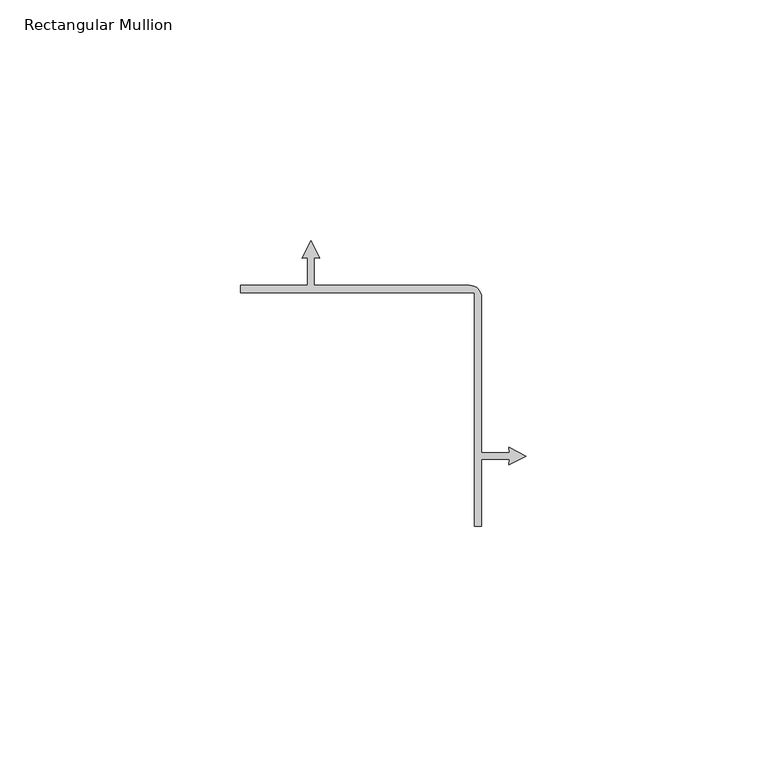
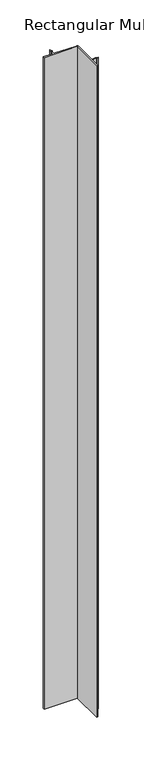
"""IFC4 building model written with IfcOpenShell, lengths in millimetres: member geometry, Rectangular Mullion : Renson_Linarte_LA-CO-04."""

import ifcopenshell
import ifcopenshell.guid

model = None  # the IFC model being written
_history = None  # IfcOwnerHistory: only IFC2X3 demands one
_inside = {}  # id of a spatial element -> (the spatial element, [elements in it])
_under = {}  # id of a project, library or spatial element -> (it, [spatial elements below it])
_declared = {}  # id of a project -> (the project, [libraries it declares])
_typed = {}  # id of a type object -> (the type object, [elements of that type])
_made_of = {}  # id of a material, layer set ... -> (it, [elements and type objects made of it])


def new_model(schema):
    """Start an empty IFC model of exactly this schema.

    Asked for "IFC4X3", IfcOpenShell would pick the latest addendum, in which some entities
    have other attributes; the version numbers below select the first issue.
    IFC2X3 requires an IfcOwnerHistory on every rooted entity: one is made here for all.
    """
    global model, _history
    if schema == "IFC4X3":
        model = ifcopenshell.file(schema_version=(4, 3, 0, 0))
    else:
        model = ifcopenshell.file(schema=schema)
    _inside.clear()
    _under.clear()
    _declared.clear()
    _typed.clear()
    _made_of.clear()
    _history = None
    if model.schema == "IFC2X3":
        org = make("IfcOrganization", Name="unknown")
        user = make(
            "IfcPersonAndOrganization",
            ThePerson=make("IfcPerson", FamilyName="unknown"),
            TheOrganization=org,
        )
        app = make(
            "IfcApplication",
            ApplicationDeveloper=org,
            Version="unknown",
            ApplicationFullName="unknown",
            ApplicationIdentifier="unknown",
        )
        _history = make(
            "IfcOwnerHistory",
            OwningUser=user,
            OwningApplication=app,
            ChangeAction="ADDED",
            CreationDate=0,
        )
    return model


def make(cls, **values):
    """One entity of the class cls with the attributes given. An attribute that is None is left unset."""
    return model.create_entity(
        cls, **{name: value for name, value in values.items() if value is not None}
    )


def rooted(cls, **values):
    """An entity with a GlobalId (a new one), such as an element, a storey or a relation."""
    return make(cls, GlobalId=ifcopenshell.guid.new(), OwnerHistory=_history, **values)


def si_unit(unit_type, name, prefix=None):
    """IfcSIUnit, for example si_unit("LENGTHUNIT", "METRE", prefix="MILLI")."""
    return make("IfcSIUnit", UnitType=unit_type, Prefix=prefix, Name=name)


def assignment(units):
    """IfcUnitAssignment: the units of a project."""
    return None if units is None else make("IfcUnitAssignment", Units=units)


def point(xyz):
    """IfcCartesianPoint."""
    return None if xyz is None else make("IfcCartesianPoint", Coordinates=xyz)


def direction(xyz):
    """IfcDirection."""
    return None if xyz is None else make("IfcDirection", DirectionRatios=xyz)


def frame(location, z_axis=None, x_axis=None):
    """IfcAxis2Placement3D, a coordinate frame: its origin and axes. An axis left out is left unset."""
    return make(
        "IfcAxis2Placement3D",
        Location=point(location),
        Axis=direction(z_axis),
        RefDirection=direction(x_axis),
    )


def frame_2d(location, x_axis=None):
    """IfcAxis2Placement2D, a coordinate frame in the plane: its origin and x axis."""
    return make(
        "IfcAxis2Placement2D", Location=point(location), RefDirection=direction(x_axis)
    )


def origin():
    """The frame at (0, 0, 0) with its axes left unset."""
    return frame((0.0, 0.0, 0.0))


def place(relative_to, where):
    """IfcLocalPlacement: puts the frame where relative to a parent placement (None: the world)."""
    return make(
        "IfcLocalPlacement", PlacementRelTo=relative_to, RelativePlacement=where
    )


def context(
    kind, dimensions, precision=None, world=None, true_north=None, identifier=None
):
    """IfcGeometricRepresentationContext, for example the 3D "Model" context."""
    return make(
        "IfcGeometricRepresentationContext",
        ContextIdentifier=identifier,
        ContextType=kind,
        CoordinateSpaceDimension=dimensions,
        Precision=precision,
        WorldCoordinateSystem=world,
        TrueNorth=true_north,
    )


def project(units=None, contexts=None):
    """IfcProject with its units and contexts."""
    return rooted(
        "IfcProject",
        Name="project",
        RepresentationContexts=contexts,
        UnitsInContext=assignment(units),
    )


def spatial(cls, under=None, at=None, **own):
    """A site, building, storey or space (cls), placed at a placement, below another one or the project."""
    s = rooted(cls, ObjectPlacement=at, **own)
    if under is not None:
        _under.setdefault(under.id(), (under, []))[1].append(s)
    return s


def polyline(points):
    """IfcPolyline through the points."""
    return make("IfcPolyline", Points=[point(p) for p in points])


def circle_curve(where, radius):
    """IfcCircle in the frame where."""
    return make("IfcCircle", Position=where, Radius=radius)


def trimmed(basis, trim1, trim2, sense, master):
    """IfcTrimmedCurve: the piece of a basis curve between two trims."""
    return make(
        "IfcTrimmedCurve",
        BasisCurve=basis,
        Trim1=trim1,
        Trim2=trim2,
        SenseAgreement=sense,
        MasterRepresentation=master,
    )


def segment(curve, same_sense, transition):
    """IfcCompositeCurveSegment."""
    return make(
        "IfcCompositeCurveSegment",
        Transition=transition,
        SameSense=same_sense,
        ParentCurve=curve,
    )


def composite_curve(segments, self_intersect=None):
    """IfcCompositeCurve: segments joined end to end."""
    return make("IfcCompositeCurve", Segments=segments, SelfIntersect=self_intersect)


def outline(outer, holes=None, kind="AREA"):
    """IfcArbitraryClosedProfileDef: a profile drawn as a closed curve; with holes, ...WithVoids."""
    if holes is None:
        return make("IfcArbitraryClosedProfileDef", ProfileType=kind, OuterCurve=outer)
    return make(
        "IfcArbitraryProfileDefWithVoids",
        ProfileType=kind,
        OuterCurve=outer,
        InnerCurves=holes,
    )


def extrude(swept, where, along, depth):
    """IfcExtrudedAreaSolid: the profile swept, set in the frame where, extruded along a direction by depth."""
    return make(
        "IfcExtrudedAreaSolid",
        SweptArea=swept,
        Position=where,
        ExtrudedDirection=direction(along),
        Depth=depth,
    )


def shape(context_of_items, identifier, shape_type, items):
    """IfcShapeRepresentation: the items that make up one representation, for example the "Body"."""
    return make(
        "IfcShapeRepresentation",
        ContextOfItems=context_of_items,
        RepresentationIdentifier=identifier,
        RepresentationType=shape_type,
        Items=items,
    )


def source(mapping_origin, context_of_items, identifier, shape_type, items):
    """IfcRepresentationMap: a shape defined once, which mapped items show again and again."""
    return make(
        "IfcRepresentationMap",
        MappingOrigin=mapping_origin,
        MappedRepresentation=shape(context_of_items, identifier, shape_type, items),
    )


def transform(
    local_origin,
    x_axis=None,
    y_axis=None,
    z_axis=None,
    scale=None,
    scale2=None,
    scale3=None,
    uniform=True,
):
    """IfcCartesianTransformationOperator3D, or its non-uniform kind. x_axis, y_axis, z_axis: its Axis1, 2, 3."""
    if uniform:
        return make(
            "IfcCartesianTransformationOperator3D",
            Axis1=direction(x_axis),
            Axis2=direction(y_axis),
            LocalOrigin=point(local_origin),
            Scale=scale,
            Axis3=direction(z_axis),
        )
    return make(
        "IfcCartesianTransformationOperator3DnonUniform",
        Axis1=direction(x_axis),
        Axis2=direction(y_axis),
        LocalOrigin=point(local_origin),
        Scale=scale,
        Axis3=direction(z_axis),
        Scale2=scale2,
        Scale3=scale3,
    )


def mapped(mapping_source, mapping_target):
    """IfcMappedItem: shows the shape of a source again, moved by a transform."""
    return make(
        "IfcMappedItem", MappingSource=mapping_source, MappingTarget=mapping_target
    )


def made_of(thing, what):
    """Note that an element or type object is made of a material, layer set ...; save() writes the relation."""
    if what is not None:
        _made_of.setdefault(what.id(), (what, []))[1].append(thing)
    return thing


def element(
    cls,
    number,
    at=None,
    inside=None,
    cuts=None,
    type_object=None,
    material=None,
    context=None,
    identifier="Body",
    shape_type=None,
    held_by="IfcProductDefinitionShape",
    body=None,
    shapes=None,
    **own,
):
    """One element of the class cls, such as IfcWall. Its Tag is "e" and its number.

    at: its placement. inside: the storey or other place that contains it. cuts: it is an
    opening in that element (IfcRelVoidsElement). A single representation is given by context,
    identifier, shape_type and body (its items); several are given by shapes. held_by: the class
    of the entity that holds the representations. save() writes the other relations.
    """
    e = rooted(cls, Tag="e%d" % number, ObjectPlacement=at, **own)
    if body is not None:
        shapes = [shape(context, identifier, shape_type, body)]
    if shapes is not None:
        e.Representation = make(held_by, Representations=shapes)
    if inside is not None:
        _inside.setdefault(inside.id(), (inside, []))[1].append(e)
    if cuts is not None:
        rooted(
            "IfcRelVoidsElement", RelatingBuildingElement=cuts, RelatedOpeningElement=e
        )
    if type_object is not None:
        _typed.setdefault(type_object.id(), (type_object, []))[1].append(e)
    return made_of(e, material)


def aggregate(whole, parts):
    """IfcRelAggregates: a whole, such as a stair, and the parts it consists of."""
    return rooted("IfcRelAggregates", RelatingObject=whole, RelatedObjects=parts)


def save(model, path):
    """Write the relations noted so far, then the file.

    IfcRelAggregates (storeys below a building ...), IfcRelContainedInSpatialStructure (elements
    in a storey), IfcRelDefinesByType, IfcRelAssociatesMaterial and IfcRelDeclares: one each for
    every whole, place, type object, material and project.
    """
    for whole, parts in _under.values():
        aggregate(whole, parts)
    for where, things in _inside.values():
        rooted(
            "IfcRelContainedInSpatialStructure",
            RelatedElements=things,
            RelatingStructure=where,
        )
    for kind, things in _typed.values():
        rooted("IfcRelDefinesByType", RelatedObjects=things, RelatingType=kind)
    for what, things in _made_of.values():
        rooted("IfcRelAssociatesMaterial", RelatedObjects=things, RelatingMaterial=what)
    for by, libraries in _declared.values():
        rooted("IfcRelDeclares", RelatingContext=by, RelatedDefinitions=libraries)
    model.write(path)


def rectangular_mullion_c17fce0e(model_context):
    return source(origin(), model_context, "Body", "SweptSolid", [
        extrude(outline(composite_curve([segment(polyline([(-44.6499631, -25.0479727), (-42.8342265, -28.6115601), (-43.9499642, -28.5139457), (-43.9499642, -34.2479727), (-11.6999631, -34.2479727)]), True, "CONTINUOUS"), segment(trimmed(circle_curve(frame_2d((-11.6999631, -36.7479727)), 2.5), [point((-11.6999631, -34.2479727))], [point((-9.1999631, -36.7479727))], False, "CARTESIAN"), True, "CONTINUOUS"), segment(polyline([(-9.1999631, -36.7479727), (-9.1999631, -68.9826096), (-3.4666453, -68.9826096), (-3.5635875, -67.8745545), (0.0, -69.6902911), (-3.5635874, -71.5060278), (-3.4666452, -70.3979727), (-9.1999631, -70.3979727), (-9.1999631, -84.2479727), (-10.6999631, -84.2479727), (-10.6999631, -35.7479727), (-59.1999631, -35.7479727), (-59.1999631, -34.2479727), (-45.3499645, -34.2479727), (-45.3499645, -28.513946), (-46.4656998, -28.6115602), (-44.6499631, -25.0479727)]), True, "CONTINUOUS")], self_intersect=False)), frame((0.0, 0.0, -1000.0), z_axis=(0.0, 0.0, 1.0), x_axis=(1.0, 0.0, 0.0)), (0.0, 0.0, 1.0), 1000.0),
    ])


if __name__ == "__main__":
    model = new_model("IFC4")
    model_context = context("Model", 3, world=origin())
    ifc_project = project(units=[si_unit("LENGTHUNIT", "METRE", prefix="MILLI")], contexts=[model_context])
    site = spatial("IfcSite", under=ifc_project)
    building = spatial("IfcBuilding", under=site)
    placement = place(None, origin())
    rectangular_mullion_shape = rectangular_mullion_c17fce0e(model_context)
    element("IfcMember", 1, ObjectType="Rectangular Mullion : Renson_Linarte_LA-CO-04", at=placement, inside=building, context=model_context, shape_type="MappedRepresentation", body=[
        mapped(rectangular_mullion_shape, transform((0.0, 0.0, 0.0), x_axis=(1.0, 0.0, 0.0), y_axis=(0.0, 1.0, 0.0), z_axis=(0.0, 0.0, 1.0))),
    ])
    save(model, "model.ifc")
